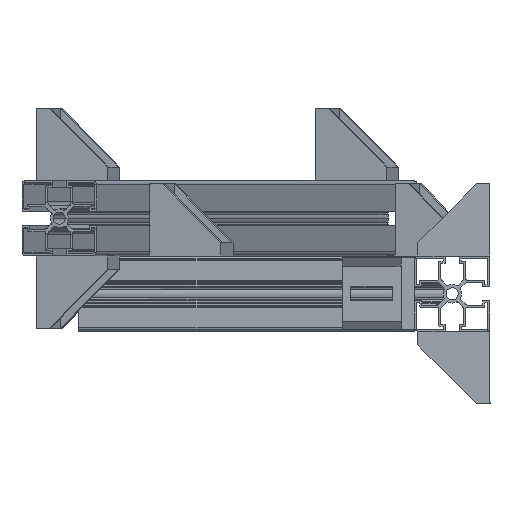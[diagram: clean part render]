
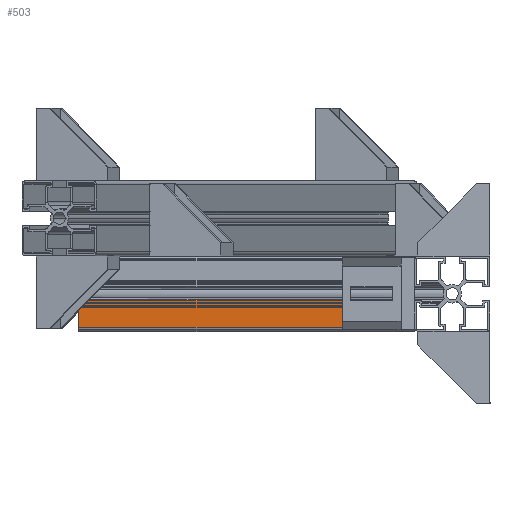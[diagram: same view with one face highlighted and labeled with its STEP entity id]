
A CAD part, left-side view. The second image highlights one B-rep face of the part: STEP entity #503.
In plain terms, the highlighted planar face has unit normal (-1, 0, 0).
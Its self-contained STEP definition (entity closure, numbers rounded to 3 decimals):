
#503 = ADVANCED_FACE ( 'NONE', ( #18359 ), #5771, .F. ) ;
#2177 = DIRECTION ( 'NONE',  ( 0., -1., 0. ) ) ;
#2181 = CARTESIAN_POINT ( 'NONE',  ( -192.809, 163.485, -42.5 ) ) ;
#2184 = CARTESIAN_POINT ( 'NONE',  ( -192.809, -36.515, -42.5 ) ) ;
#2188 = DIRECTION ( 'NONE',  ( 0., 0., -1. ) ) ;
#2189 = CARTESIAN_POINT ( 'NONE',  ( -192.809, 163.485, -26.651 ) ) ;
#2190 = DIRECTION ( 'NONE',  ( 0., -1., 0. ) ) ;
#3387 = CARTESIAN_POINT ( 'NONE',  ( -192.809, -36.515, -42.5 ) ) ;
#5332 = VERTEX_POINT ( 'NONE', #3387 ) ;
#5764 = CARTESIAN_POINT ( 'NONE',  ( -192.809, 163.485, -42.5 ) ) ;
#5771 = PLANE ( 'NONE',  #13961 ) ;
#5773 = DIRECTION ( 'NONE',  ( 1., 0., 0. ) ) ;
#5774 = DIRECTION ( 'NONE',  ( 0., 0., -1. ) ) ;
#6947 = EDGE_CURVE ( 'NONE', #13541, #5332, #16501, .T. ) ;
#6948 = EDGE_CURVE ( 'NONE', #13521, #5332, #16499, .T. ) ;
#6949 = EDGE_CURVE ( 'NONE', #13543, #13521, #16504, .T. ) ;
#9180 = LINE ( 'NONE', #10689, #9183 ) ;
#9183 = VECTOR ( 'NONE', #10690, 1000. ) ;
#10689 = CARTESIAN_POINT ( 'NONE',  ( -192.809, 163.485, -42.5 ) ) ;
#10690 = DIRECTION ( 'NONE',  ( 0., 0., 1. ) ) ;
#11924 = EDGE_LOOP ( 'NONE', ( #17496, #17497, #17498, #17499 ) ) ;
#13521 = VERTEX_POINT ( 'NONE', #14370 ) ;
#13541 = VERTEX_POINT ( 'NONE', #14390 ) ;
#13543 = VERTEX_POINT ( 'NONE', #14392 ) ;
#13961 = AXIS2_PLACEMENT_3D ( 'NONE', #5764, #5773, #5774 ) ;
#14370 = CARTESIAN_POINT ( 'NONE',  ( -192.809, -36.515, -26.651 ) ) ;
#14390 = CARTESIAN_POINT ( 'NONE',  ( -192.809, 163.485, -42.5 ) ) ;
#14392 = CARTESIAN_POINT ( 'NONE',  ( -192.809, 163.485, -26.651 ) ) ;
#16499 = LINE ( 'NONE', #2184, #16505 ) ;
#16501 = LINE ( 'NONE', #2181, #16503 ) ;
#16503 = VECTOR ( 'NONE', #2177, 1000. ) ;
#16504 = LINE ( 'NONE', #2189, #16507 ) ;
#16505 = VECTOR ( 'NONE', #2188, 1000. ) ;
#16507 = VECTOR ( 'NONE', #2190, 1000. ) ;
#17496 = ORIENTED_EDGE ( 'NONE', *, *, #6948, .F. ) ;
#17497 = ORIENTED_EDGE ( 'NONE', *, *, #6949, .F. ) ;
#17498 = ORIENTED_EDGE ( 'NONE', *, *, #20494, .F. ) ;
#17499 = ORIENTED_EDGE ( 'NONE', *, *, #6947, .T. ) ;
#18359 = FACE_OUTER_BOUND ( 'NONE', #11924, .T. ) ;
#20494 = EDGE_CURVE ( 'NONE', #13541, #13543, #9180, .T. ) ;
